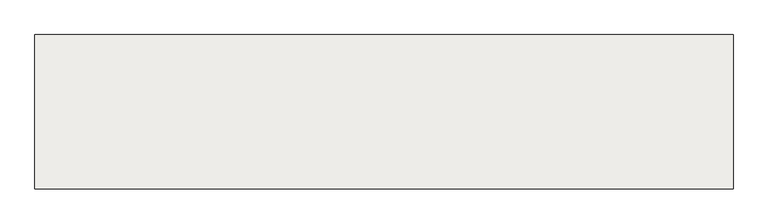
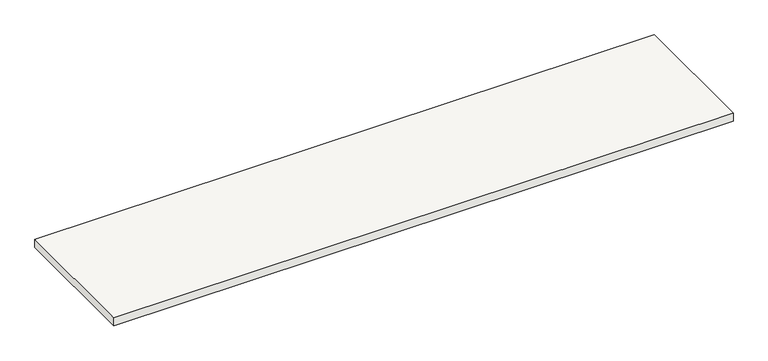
"""IFC4 building model written with IfcOpenShell, lengths in millimetres: slab geometry, Descansillo no monolítico."""

from ifc_helpers import new_model, si_unit, frame, origin, place, context, project, spatial, polyline, outline, extrude, source, transform, mapped, element, save


def slab_6e3d43eb(model_context):
    return source(origin(), model_context, "Body", "SweptSolid", [
        extrude(outline(polyline([(-5995.8480416, -4301.9240046), (-5995.8480416, -3493.0576775), (-2334.865283, -3493.0576775), (-2334.865283, -4301.9240046), (-5995.8480416, -4301.9240046)])), frame((0.0, 0.0, 1380.0), z_axis=(0.0, 0.0, 1.0), x_axis=(1.0, 0.0, 0.0)), (0.0, 0.0, 1.0), 50.0),
    ])


if __name__ == "__main__":
    model = new_model("IFC4")
    model_context = context("Model", 3, world=origin())
    ifc_project = project(units=[si_unit("LENGTHUNIT", "METRE", prefix="MILLI")], contexts=[model_context])
    site = spatial("IfcSite", under=ifc_project)
    building = spatial("IfcBuilding", under=site)
    placement = place(None, origin())
    slab_shape = slab_6e3d43eb(model_context)
    element("IfcSlab", 1, ObjectType="Descansillo no monolítico", at=placement, inside=building, context=model_context, shape_type="MappedRepresentation", body=[
        mapped(slab_shape, transform((0.0, 0.0, 0.0), x_axis=(1.0, 0.0, 0.0), y_axis=(0.0, 1.0, 0.0), z_axis=(0.0, 0.0, 1.0))),
    ])
    save(model, "model.ifc")
